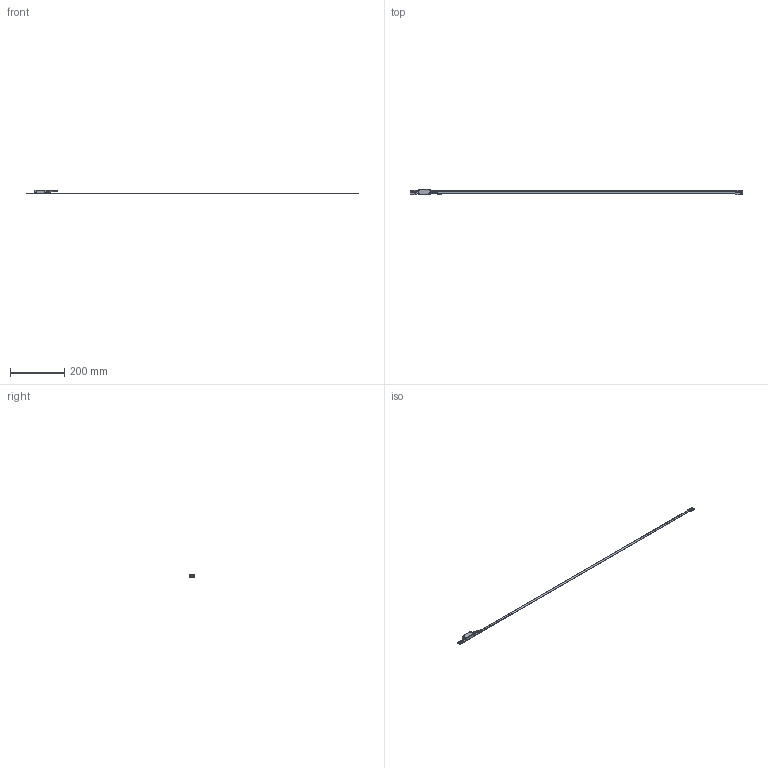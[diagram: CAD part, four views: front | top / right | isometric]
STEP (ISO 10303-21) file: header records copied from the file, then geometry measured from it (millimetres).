
FILE_DESCRIPTION(('Creo Elements/Direct Modeling STEP Export'),'2;1');
FILE_NAME('EXAA-1120.stp','2017-01-11T17:16:00',(''),(''),'Creo Elements/Direct Modeling STEP processor for AP214 (Solid Model)','Creo Elements/Direct Modeling 18.1H 24-Oct-2015 (C) Parametric Technology GmbH','');
FILE_SCHEMA(('AUTOMOTIVE_DESIGN { 1 0 10303 214 1 1 1 1 }'));
Length unit declared in the file: millimetre
Products named in the file (7): CABEZA_EXPOSED; FLEJE_REGLA_EXPOSED_1120; TOPE_FLEJE_PEGADO.1; TOPE_FLEJE_PEGADO
Assembly tree (4 placements, depth 2):
  CABEZA_EXPOSED
    CABEZA_EXPOSED
  FLEJE_REGLA_EXPOSED_1120
    FLEJE_REGLA_EXPOSED_1120
  TOPE_FLEJE_PEGADO
    TOPE_FLEJE_PEGADO.1
  TOPE_FLEJE_PEGADO.1
    TOPE_FLEJE_PEGADO.1
Bounding box: 1226 x 20.7 x 13.1 mm (x, y, z)
Volume: 16795.5 mm3; surface area: 31757.3 mm2
Topology: 4 solids, 10 shells, 929 faces, 2589 edges, 1700 vertices
Faces by surface type: plane 741, cylinder 130, cone 46, torus 12
Entity records: 18785 total; most frequent: CARTESIAN_POINT 3390, ORIENTED_EDGE 3200, DIRECTION 2779, EDGE_CURVE 1600, VECTOR 1279, LINE 1279, VERTEX_POINT 1046, AXIS2_PLACEMENT_3D 750
